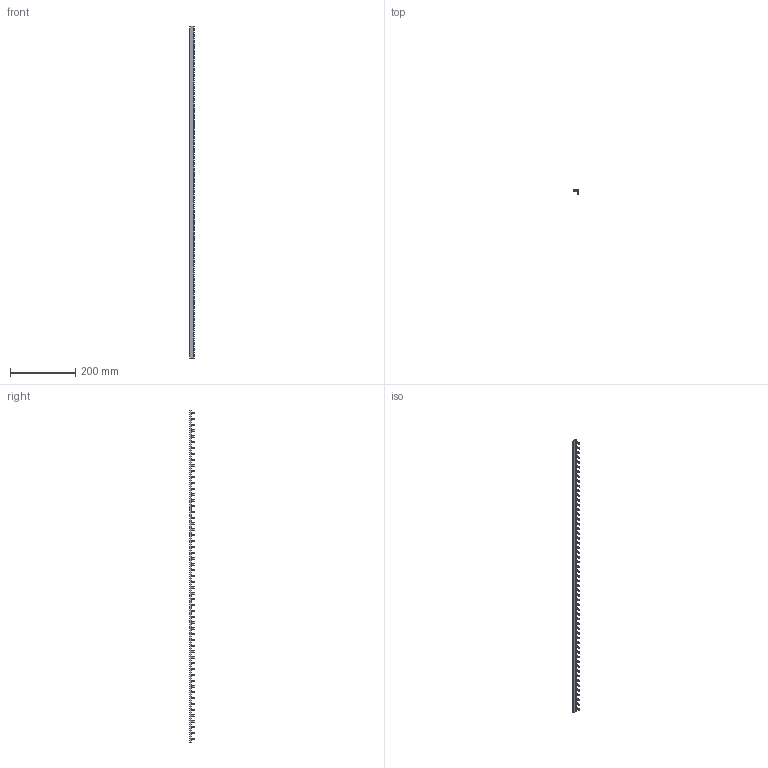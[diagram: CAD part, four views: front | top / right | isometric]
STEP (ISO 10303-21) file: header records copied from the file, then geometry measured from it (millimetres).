
FILE_DESCRIPTION (( 'STEP AP214' ), '1' );
FILE_NAME ('S1L-1000-16.step', '2011-08-12T10:24:05', ( 'Radek Veselý' ), ( 'Siemens and Partners' ), 'SwSTEP 2.0', 'SolidWorks 2006303', '' );
FILE_SCHEMA (( 'AUTOMOTIVE_DESIGN' ));
Length unit declared in the file: millimetre
Products named in the file (1): S1L-1000-16
Bounding box: 15 x 15.15 x 1016 mm (x, y, z)
Volume: 50390.3 mm3; surface area: 93002.6 mm2
Topology: 2 solids, 2 shells, 592 faces, 1764 edges, 1176 vertices
Faces by surface type: plane 352, cylinder 240
Entity records: 26472 total; most frequent: CARTESIAN_POINT 3533, ORIENTED_EDGE 3528, DIRECTION 3430, EDGE_CURVE 1764, VECTOR 1284, LINE 1284, VERTEX_POINT 1176, AXIS2_PLACEMENT_3D 1073
